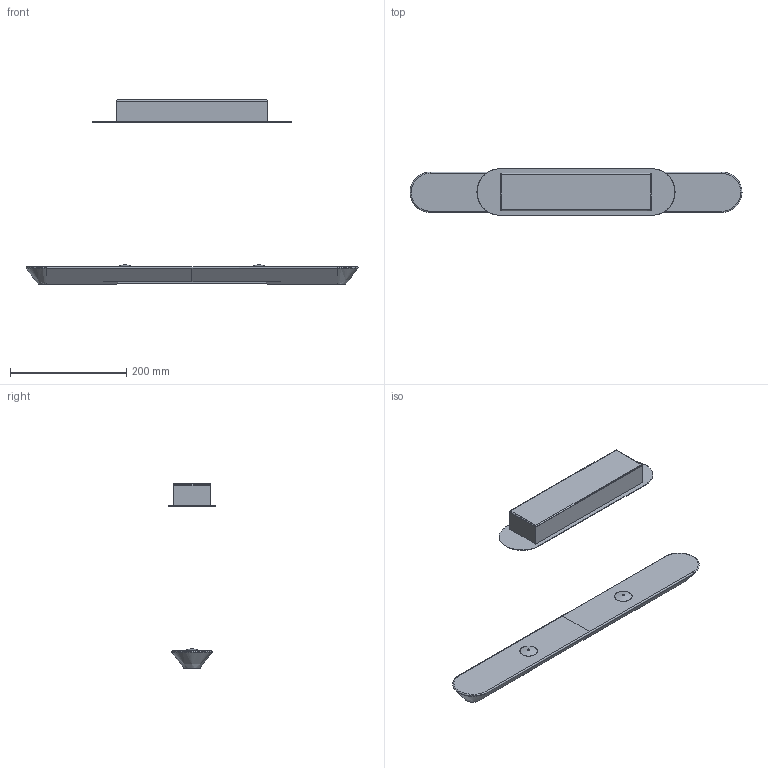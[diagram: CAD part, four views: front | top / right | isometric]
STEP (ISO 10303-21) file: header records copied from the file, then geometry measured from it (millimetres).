
FILE_DESCRIPTION(/* description */ (''),/* implementation_level */ '2;1');
FILE_NAME(/* name */ 'STE3952',/* time_stamp */ '2021-11-15T16:57:59+01:00',/* author */ (''),/* organization */ (''),/* preprocessor_version */ 'ST-DEVELOPER v16.5',/* originating_system */ '',/* authorisation */ '');
FILE_SCHEMA (('CONFIG_CONTROL_DESIGN'));
Length unit declared in the file: millimetre
Products named in the file (1): Document
Bounding box: 570 x 80 x 316.06 mm (x, y, z)
Volume: 628350.2 mm3; surface area: 294767 mm2
Topology: 4 solids, 7 shells, 159 faces, 386 edges, 242 vertices
Faces by surface type: plane 93, bspline 36, cylinder 30
Entity records: 5985 total; most frequent: CARTESIAN_POINT 3312, ORIENTED_EDGE 768, EDGE_CURVE 386, B_SPLINE_CURVE_WITH_KNOTS 290, VERTEX_POINT 242, EDGE_LOOP 167, ADVANCED_FACE 159, FACE_OUTER_BOUND 159
